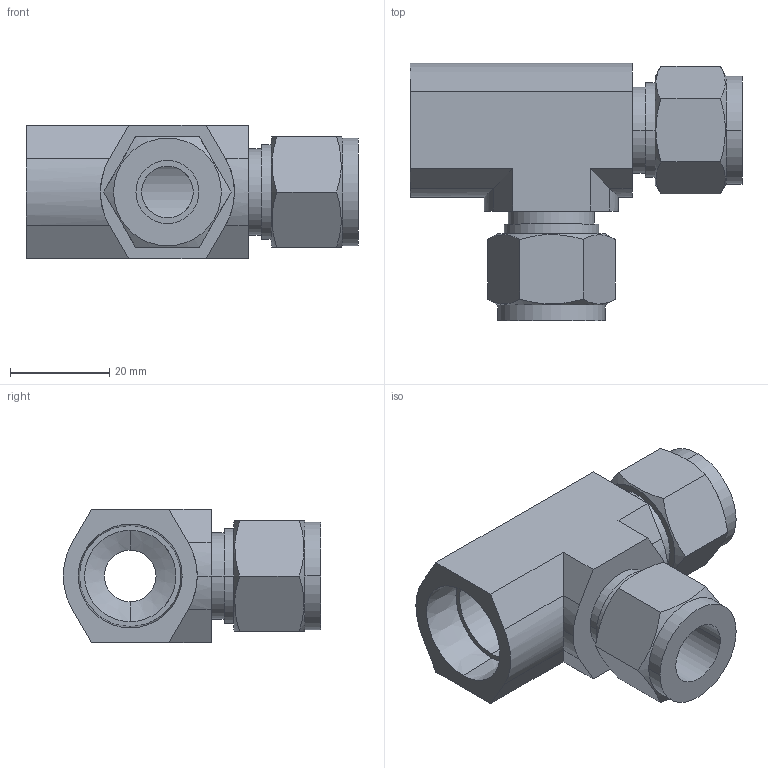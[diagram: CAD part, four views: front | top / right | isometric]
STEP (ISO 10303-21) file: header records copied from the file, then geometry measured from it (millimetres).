
FILE_DESCRIPTION (( 'STEP AP203' ), '1' );
FILE_NAME ('DTF 08-08 SS.STEP', '2009-09-08T09:44:48', ( ' ' ), ( '' ), 'SwSTEP 2.0', 'SolidWorks 2008', '' );
FILE_SCHEMA (( 'CONFIG_CONTROL_DESIGN' ));
Length unit declared in the file: millimetre
Products named in the file (1): DTF 08-08 SS
Bounding box: 66.9 x 51.9 x 27 mm (x, y, z)
Volume: 30020.8 mm3; surface area: 13638.7 mm2
Topology: 1 solids, 1 shells, 76 faces, 185 edges, 120 vertices
Faces by surface type: plane 36, cylinder 28, cone 12
Entity records: 2591 total; most frequent: CARTESIAN_POINT 737, ORIENTED_EDGE 370, DIRECTION 361, EDGE_CURVE 185, AXIS2_PLACEMENT_3D 136, VERTEX_POINT 120, EDGE_LOOP 89, VECTOR 89
